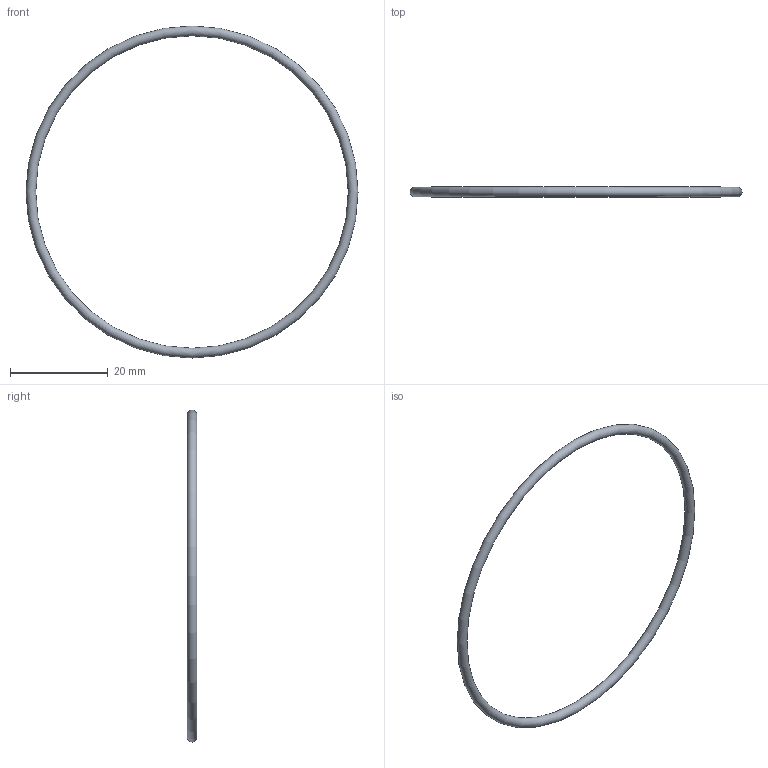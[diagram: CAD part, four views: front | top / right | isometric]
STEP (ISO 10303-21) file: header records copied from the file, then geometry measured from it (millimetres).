
FILE_DESCRIPTION( ( 'STEP AP203' ), '1' );
FILE_NAME( 'C:/Temp/Ganter_Step_05_03_2020/data/3_5/or638/O-Ring OR638-64.00-2.00-70.stp', '2020-03-12T13:44:24', ( 'License CC BY-ND 4.0' ), ( 'CADENAS' ), ' ', 'PARTsolutions', ' ' );
FILE_SCHEMA( ( 'CONFIG_CONTROL_DESIGN' ) );
Length unit declared in the file: millimetre
Products named in the file (1): _O-Ring OR638-64.00-2.00-70
Bounding box: 68 x 2 x 68 mm (x, y, z)
Volume: 651.4 mm3; surface area: 1302.8 mm2
Topology: 1 solids, 1 shells, 1 faces, 2 edges, 1 vertices
Faces by surface type: torus 1
Entity records: 62 total; most frequent: CC_DESIGN_PERSON_AND_ORGANIZATION_ASSIGNMENT 5, PERSON_AND_ORGANIZATION_ROLE 4, DIRECTION 4, CARTESIAN_POINT 3, DATE_TIME_ROLE 2, CC_DESIGN_DATE_AND_TIME_ASSIGNMENT 2, AXIS2_PLACEMENT_3D 2, DIMENSIONAL_EXPONENTS 2
